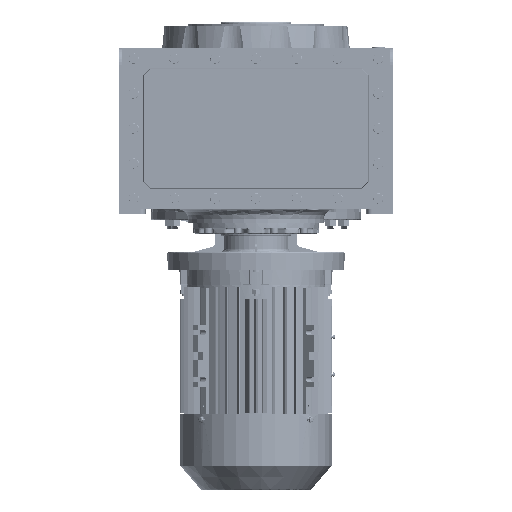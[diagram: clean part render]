
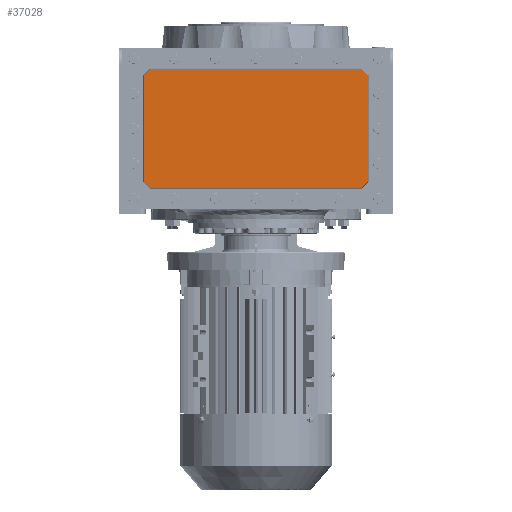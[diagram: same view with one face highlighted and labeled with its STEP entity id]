
A CAD part, front view. The second image highlights one B-rep face of the part: STEP entity #37028.
In plain terms, the highlighted planar face has unit normal (0, -1, 0).
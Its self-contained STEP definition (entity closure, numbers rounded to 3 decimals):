
#15869 = FACE_OUTER_BOUND ( 'NONE', #18429, .T. ) ;
#18429 = EDGE_LOOP ( 'NONE', ( #48962, #48935, #48899, #48960, #48963, #46241, #48771, #46163 ) ) ;
#19965 = DIRECTION ( 'NONE',  ( 0., 0., -1. ) ) ;
#19990 = CARTESIAN_POINT ( 'NONE',  ( 0., -195., 0. ) ) ;
#20013 = PLANE ( 'NONE',  #22449 ) ;
#20059 = DIRECTION ( 'NONE',  ( 0., -1., 0. ) ) ;
#22449 = AXIS2_PLACEMENT_3D ( 'NONE', #19990, #20059, #19965 ) ;
#37028 = ADVANCED_FACE ( 'NONE', ( #15869 ), #20013, .T. ) ;
#46163 = ORIENTED_EDGE ( 'NONE', *, *, #162218, .F. ) ;
#46241 = ORIENTED_EDGE ( 'NONE', *, *, #162192, .F. ) ;
#48301 = VERTEX_POINT ( 'NONE', #84334 ) ;
#48303 = VERTEX_POINT ( 'NONE', #84172 ) ;
#48313 = VERTEX_POINT ( 'NONE', #84175 ) ;
#48317 = VERTEX_POINT ( 'NONE', #84185 ) ;
#48359 = VERTEX_POINT ( 'NONE', #84331 ) ;
#48369 = VERTEX_POINT ( 'NONE', #84277 ) ;
#48443 = VERTEX_POINT ( 'NONE', #84427 ) ;
#48463 = VERTEX_POINT ( 'NONE', #84387 ) ;
#48771 = ORIENTED_EDGE ( 'NONE', *, *, #162238, .F. ) ;
#48899 = ORIENTED_EDGE ( 'NONE', *, *, #162160, .F. ) ;
#48935 = ORIENTED_EDGE ( 'NONE', *, *, #162137, .F. ) ;
#48960 = ORIENTED_EDGE ( 'NONE', *, *, #162206, .F. ) ;
#48962 = ORIENTED_EDGE ( 'NONE', *, *, #162244, .F. ) ;
#48963 = ORIENTED_EDGE ( 'NONE', *, *, #162258, .F. ) ;
#84172 = CARTESIAN_POINT ( 'NONE',  ( -178.667, -195., -273.946 ) ) ;
#84175 = CARTESIAN_POINT ( 'NONE',  ( 190.196, -195., -262.417 ) ) ;
#84185 = CARTESIAN_POINT ( 'NONE',  ( -190.196, -195., -83.083 ) ) ;
#84277 = CARTESIAN_POINT ( 'NONE',  ( -190.196, -195., -262.417 ) ) ;
#84331 = CARTESIAN_POINT ( 'NONE',  ( -178.667, -195., -71.554 ) ) ;
#84334 = CARTESIAN_POINT ( 'NONE',  ( 178.667, -195., -71.554 ) ) ;
#84387 = CARTESIAN_POINT ( 'NONE',  ( 190.196, -195., -83.083 ) ) ;
#84427 = CARTESIAN_POINT ( 'NONE',  ( 178.667, -195., -273.946 ) ) ;
#128511 = CARTESIAN_POINT ( 'NONE',  ( 178.432, -195., -71.318 ) ) ;
#128528 = DIRECTION ( 'NONE',  ( 0.707, 0., -0.707 ) ) ;
#128602 = DIRECTION ( 'NONE',  ( 1., 0., 0. ) ) ;
#128616 = CARTESIAN_POINT ( 'NONE',  ( -179., -195., -71.554 ) ) ;
#128664 = DIRECTION ( 'NONE',  ( -0.707, 0., -0.707 ) ) ;
#128695 = CARTESIAN_POINT ( 'NONE',  ( -178.432, -195., -71.318 ) ) ;
#128720 = CARTESIAN_POINT ( 'NONE',  ( 190.432, -195., -262.182 ) ) ;
#128733 = DIRECTION ( 'NONE',  ( 0.707, 0., 0.707 ) ) ;
#128739 = CARTESIAN_POINT ( 'NONE',  ( -190.432, -195., -262.182 ) ) ;
#128744 = DIRECTION ( 'NONE',  ( -0.707, 0., 0.707 ) ) ;
#128760 = CARTESIAN_POINT ( 'NONE',  ( -190.196, -195., -82.75 ) ) ;
#128774 = CARTESIAN_POINT ( 'NONE',  ( -179., -195., -273.946 ) ) ;
#128776 = DIRECTION ( 'NONE',  ( 0., 0., -1. ) ) ;
#128820 = DIRECTION ( 'NONE',  ( 0., 0., 1. ) ) ;
#128824 = DIRECTION ( 'NONE',  ( -1., 0., 0. ) ) ;
#128831 = CARTESIAN_POINT ( 'NONE',  ( 190.196, -195., -82.75 ) ) ;
#131599 = LINE ( 'NONE', #128511, #131607 ) ;
#131603 = VECTOR ( 'NONE', #128744, 1000. ) ;
#131607 = VECTOR ( 'NONE', #128528, 1000. ) ;
#131622 = LINE ( 'NONE', #128760, #131777 ) ;
#131634 = VECTOR ( 'NONE', #128664, 1000. ) ;
#131638 = LINE ( 'NONE', #128720, #131634 ) ;
#131643 = LINE ( 'NONE', #128831, #131750 ) ;
#131662 = LINE ( 'NONE', #128695, #131796 ) ;
#131676 = VECTOR ( 'NONE', #128824, 1000. ) ;
#131722 = LINE ( 'NONE', #128616, #131805 ) ;
#131725 = LINE ( 'NONE', #128739, #131603 ) ;
#131741 = LINE ( 'NONE', #128774, #131676 ) ;
#131750 = VECTOR ( 'NONE', #128776, 1000. ) ;
#131777 = VECTOR ( 'NONE', #128820, 1000. ) ;
#131796 = VECTOR ( 'NONE', #128733, 1000. ) ;
#131805 = VECTOR ( 'NONE', #128602, 1000. ) ;
#162137 = EDGE_CURVE ( 'NONE', #48301, #48463, #131599, .T. ) ;
#162160 = EDGE_CURVE ( 'NONE', #48359, #48301, #131722, .T. ) ;
#162192 = EDGE_CURVE ( 'NONE', #48303, #48369, #131725, .T. ) ;
#162206 = EDGE_CURVE ( 'NONE', #48317, #48359, #131662, .T. ) ;
#162218 = EDGE_CURVE ( 'NONE', #48313, #48443, #131638, .T. ) ;
#162238 = EDGE_CURVE ( 'NONE', #48443, #48303, #131741, .T. ) ;
#162244 = EDGE_CURVE ( 'NONE', #48463, #48313, #131643, .T. ) ;
#162258 = EDGE_CURVE ( 'NONE', #48369, #48317, #131622, .T. ) ;
